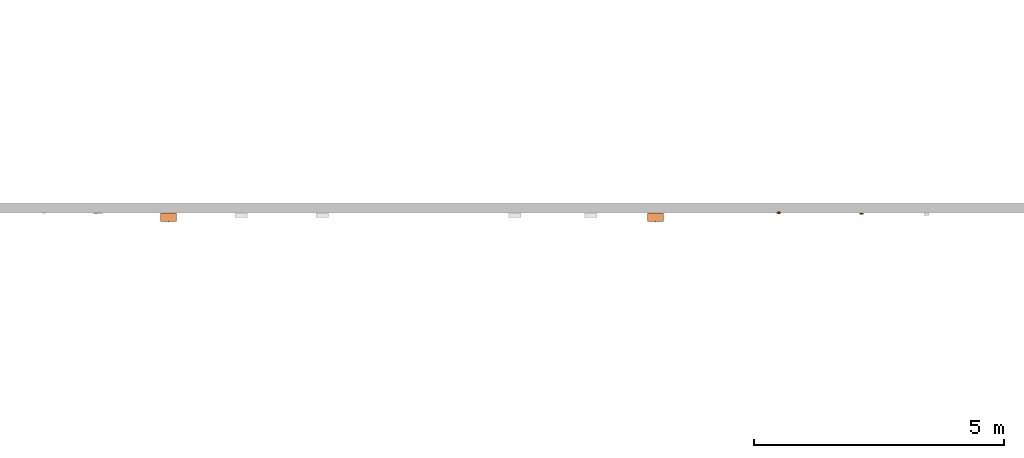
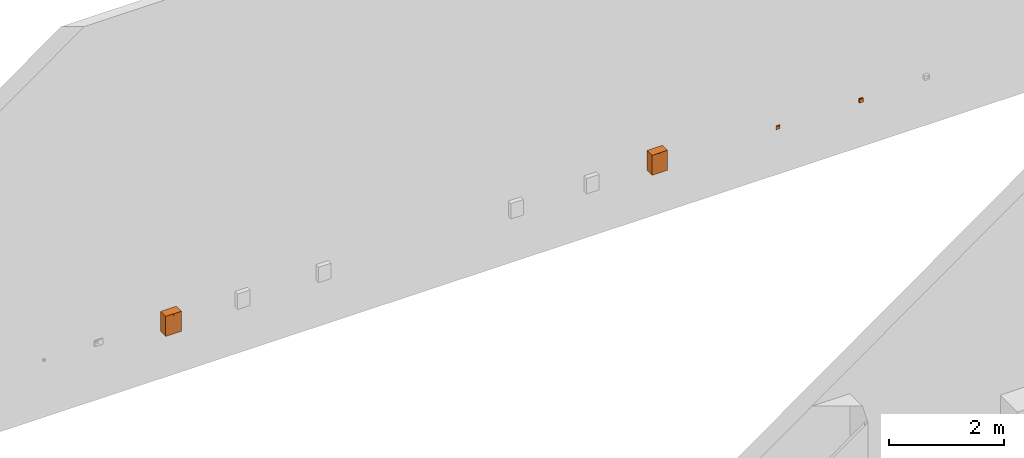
# One storey, part 94 of 197: 4 proxies.
"""IFC2X3 building model written with IfcOpenShell, lengths in metres."""

from ifc_helpers import new_model, entity, si_unit, converted_unit, direction, frame, origin, place, context, subcontext, project, spatial, faceted_brep, source, transform, mapped, material, material_list, type_object, type_shapes, element, save


model = new_model("IFC2X3")

# Units and contexts
model_context = context("Model", 3, precision=1e-05, world=origin(), true_north=direction((6.123031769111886e-17, 1.0)))
body_context = subcontext(model_context, "Body", "Model", "MODEL_VIEW")
ifc_project = project(units=[si_unit("LENGTHUNIT", "METRE"), converted_unit("PLANEANGLEUNIT", "DEGREE", entity("IfcPlaneAngleMeasure", 0.017453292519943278), si_unit("PLANEANGLEUNIT", "RADIAN"), dimensions=[0, 0, 0, 0, 0, 0, 0]), si_unit("AREAUNIT", "SQUARE_METRE")], contexts=[model_context])

# Site, building, storey
site_placement = place(None, origin())
site = spatial("IfcSite", under=ifc_project, at=site_placement, Name="Default", CompositionType="ELEMENT")
building_placement = place(site_placement, origin())
building = spatial("IfcBuilding", under=site, at=building_placement, CompositionType="ELEMENT")
storey_placement = place(building_placement, origin())
storey = spatial("IfcBuildingStorey", under=building, at=storey_placement, Name="Niveau 0", CompositionType="ELEMENT", Elevation=0.0)

# Proxies
ifc_material_1 = material(Name="<Unnamed>")
building_element_proxy_type_1 = type_object("IfcBuildingElementProxyType", Name="Centrale:Centrale control d'accés", PredefinedType="NOTDEFINED", material=ifc_material_1)
shared_shape_1 = source(origin(), body_context, "Body", "Brep", [
    faceted_brep([(0.0009489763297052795, -0.1840000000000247, 0.41400995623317), (0.0009489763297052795, -0.1840000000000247, 0.398122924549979), (0.002824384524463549, -0.1840000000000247, 0.39858159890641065), (0.004535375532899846, -0.1840000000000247, 0.3994762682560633), (0.00598229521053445, -0.1840000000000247, 0.40075492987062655), (0.007080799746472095, -0.1840000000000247, 0.40234323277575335), (0.007766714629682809, -0.1840000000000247, 0.4041485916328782), (0.008000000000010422, -0.1840000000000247, 0.4060664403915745), (0.007766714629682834, -0.1840000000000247, 0.40798428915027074), (0.00708079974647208, -0.1840000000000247, 0.4097896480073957), (0.005982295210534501, -0.1840000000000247, 0.4113779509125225), (0.004535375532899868, -0.1840000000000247, 0.4126566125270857), (0.0028243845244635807, -0.1840000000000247, 0.41355128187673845), (-0.006016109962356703, -0.1840000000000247, 0.4113396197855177), (-0.0070965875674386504, -0.1840000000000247, 0.4097594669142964), (-0.007770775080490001, -0.1840000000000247, 0.4079677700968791), (-0.007999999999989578, -0.1840000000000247, 0.4060664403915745), (-0.007770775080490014, -0.1840000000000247, 0.40416511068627), (-0.007096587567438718, -0.1840000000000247, 0.4023734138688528), (-0.0060161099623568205, -0.1840000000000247, 0.40079326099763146), (-0.004591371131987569, -0.1840000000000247, 0.3995151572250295), (-0.0029039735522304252, -0.1840000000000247, 0.3986121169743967), (-0.0010510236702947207, -0.1840000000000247, 0.3981357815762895), (-0.0010510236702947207, -0.1840000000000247, 0.41399709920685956), (-0.0029039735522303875, -0.1840000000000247, 0.4135207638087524), (-0.004591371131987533, -0.1840000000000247, 0.41261772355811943), (-0.0020705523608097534, -0.17500000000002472, 0.398339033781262), (-0.003999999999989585, -0.17500000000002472, 0.39913823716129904), (-0.005656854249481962, -0.17500000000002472, 0.40040958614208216), (-0.006928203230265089, -0.17500000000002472, 0.4020664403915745), (-0.007727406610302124, -0.17500000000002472, 0.4039958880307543), (-0.007999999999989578, -0.17500000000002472, 0.4060664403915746), (-0.007727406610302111, -0.17500000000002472, 0.4081369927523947), (-0.006928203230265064, -0.17500000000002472, 0.4100664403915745), (-0.005656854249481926, -0.17500000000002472, 0.41172329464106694), (-0.0039999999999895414, -0.17500000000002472, 0.41299464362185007), (-0.0020705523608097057, -0.17500000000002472, 0.41379384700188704), (0.0, -0.17500000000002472, 0.41406644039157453), (0.0020705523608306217, -0.17500000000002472, 0.41379384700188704), (0.00400000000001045, -0.17500000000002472, 0.41299464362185), (0.005656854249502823, -0.17500000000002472, 0.4117232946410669), (0.006928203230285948, -0.17500000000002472, 0.41006644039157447), (0.007727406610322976, -0.17500000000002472, 0.4081369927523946), (0.008000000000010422, -0.17500000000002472, 0.4060664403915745), (0.007727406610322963, -0.17500000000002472, 0.4039958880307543), (0.006928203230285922, -0.17500000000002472, 0.40206644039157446), (0.005656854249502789, -0.17500000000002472, 0.4004095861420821), (0.00400000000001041, -0.17500000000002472, 0.39913823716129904), (0.0020705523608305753, -0.17500000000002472, 0.398339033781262), (0.0, -0.17500000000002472, 0.3980664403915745), (0.008000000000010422, -0.1779743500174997, 0.40606644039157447), (0.007975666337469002, -0.17830611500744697, 0.4066899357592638), (0.007952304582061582, -0.1789661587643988, 0.40693870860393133), (0.0009489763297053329, -0.18200000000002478, 0.41400995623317), (0.008000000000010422, -0.1799579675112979, 0.40606644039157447), (0.007975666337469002, -0.1796262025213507, 0.4066899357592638), (-5.1427042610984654e-05, -0.18200000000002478, 0.4140662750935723), (-0.007952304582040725, -0.1789661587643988, 0.40693870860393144), (-0.007975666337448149, -0.17830611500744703, 0.406689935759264), (-0.007999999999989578, -0.17797435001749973, 0.4060664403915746), (-0.001051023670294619, -0.18200000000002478, 0.41399709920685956), (-0.007975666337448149, -0.1796262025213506, 0.406689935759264), (-0.007999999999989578, -0.17995796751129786, 0.4060664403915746), (-0.007961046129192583, -0.17821557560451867, 0.4052779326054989), (-0.007920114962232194, -0.1789661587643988, 0.40493870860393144), (-0.0010510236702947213, -0.18200000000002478, 0.3981357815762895), (-0.007961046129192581, -0.1797167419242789, 0.4052779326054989), (-5.142704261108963e-05, -0.18200000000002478, 0.39806660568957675), (0.0009489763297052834, -0.18200000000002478, 0.398122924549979), (0.007961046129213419, -0.17821557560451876, 0.4052779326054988), (0.007920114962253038, -0.1789661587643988, 0.40493870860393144), (0.007961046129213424, -0.1797167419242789, 0.4052779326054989)], [[[0, 1, 2, 3, 4, 5, 6, 7, 8, 9, 10, 11, 12]], [[13, 14, 15, 16, 17, 18, 19, 20, 21, 22, 23, 24, 25]], [[26, 27, 28, 29, 30, 31, 32, 33, 34, 35, 36, 37, 38, 39, 40, 41, 42, 43, 44, 45, 46, 47, 48, 49]], [[43, 42, 50]], [[41, 51, 50]], [[39, 52, 51]], [[41, 50, 42]], [[39, 51, 40]], [[52, 38, 53]], [[52, 39, 38]], [[40, 51, 41]], [[53, 38, 37]], [[9, 54, 10]], [[54, 8, 7]], [[8, 54, 9]], [[54, 55, 53]], [[53, 0, 12]], [[53, 11, 10]], [[11, 53, 12]], [[53, 10, 54]], [[55, 52, 53]], [[53, 37, 56]], [[57, 36, 35]], [[58, 34, 33]], [[35, 34, 58]], [[33, 32, 59]], [[59, 58, 33]], [[57, 35, 58]], [[36, 57, 60]], [[32, 31, 59]], [[60, 57, 61]], [[37, 60, 56]], [[60, 24, 23]], [[24, 60, 25]], [[60, 13, 25]], [[62, 16, 15]], [[62, 14, 13]], [[14, 62, 15]], [[62, 13, 60]], [[61, 62, 60]], [[60, 37, 36]], [[63, 59, 30]], [[27, 64, 63]], [[65, 66, 64]], [[30, 59, 31]], [[28, 63, 29]], [[27, 26, 64]], [[63, 28, 27]], [[29, 63, 30]], [[65, 64, 26]], [[66, 18, 62]], [[66, 19, 18]], [[62, 17, 16]], [[17, 62, 18]], [[19, 66, 65]], [[65, 21, 20]], [[21, 65, 22]], [[65, 20, 19]], [[65, 49, 67]], [[65, 26, 49]], [[48, 68, 49]], [[69, 47, 46]], [[48, 47, 70]], [[46, 45, 69]], [[44, 43, 50]], [[70, 47, 69]], [[50, 69, 44]], [[69, 45, 44]], [[68, 48, 70]], [[68, 4, 3]], [[4, 68, 71]], [[68, 2, 1]], [[2, 68, 3]], [[71, 54, 5]], [[54, 6, 5]], [[6, 54, 7]], [[71, 5, 4]], [[68, 70, 71]], [[68, 67, 49]], [[60, 65, 67, 68, 53, 56]], [[1, 0, 53, 68]], [[22, 65, 60, 23]], [[58, 51, 52, 57]], [[51, 58, 59, 50]], [[63, 69, 50, 59]], [[63, 64, 70, 69]], [[66, 71, 70, 64]], [[62, 54, 71, 66]], [[61, 55, 54, 62]], [[61, 57, 52, 55]]]),
    faceted_brep([(0.15750000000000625, 0.0, 0.42499999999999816), (-0.1575000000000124, 0.0, 0.42499999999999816), (-0.1575000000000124, -0.17500000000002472, 0.42499999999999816), (0.15750000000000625, -0.17500000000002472, 0.42499999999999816), (0.15750000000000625, 0.0, 0.0), (0.15750000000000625, -0.17500000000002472, 0.0), (-0.1575000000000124, -0.17500000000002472, 0.0), (-0.1575000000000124, 0.0, 0.0)], [[[0, 1, 2, 3]], [[4, 5, 6, 7]], [[1, 0, 4, 7]], [[2, 1, 7, 6]], [[3, 2, 6, 5]], [[0, 3, 5, 4]]]),
])
type_shapes(building_element_proxy_type_1, [shared_shape_1])
proxy_1_placement = place(storey_placement, frame((-518.7917193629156, -41.55864475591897, 1.0)))
element("IfcBuildingElementProxy", 1, at=proxy_1_placement, inside=storey, type_object=building_element_proxy_type_1, material=ifc_material_1, Name="Centrale:Centrale control d'accés", ObjectType="Centrale:Centrale control d'accés", context=body_context, shape_type="MappedRepresentation", body=[
    mapped(shared_shape_1, transform((0.0, 0.0, 0.0), scale=1.0)),
])
building_element_proxy_type_2 = type_object("IfcBuildingElementProxyType", Name="Centrale:Centrale intrusion", PredefinedType="NOTDEFINED", material=ifc_material_1)
shared_shape_2 = source(origin(), body_context, "Body", "Brep", [
    faceted_brep([(0.0009489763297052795, -0.1840000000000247, 0.41400995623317), (0.0009489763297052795, -0.1840000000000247, 0.398122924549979), (0.002824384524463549, -0.1840000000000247, 0.39858159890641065), (0.004535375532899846, -0.1840000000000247, 0.3994762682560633), (0.00598229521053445, -0.1840000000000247, 0.40075492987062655), (0.007080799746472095, -0.1840000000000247, 0.40234323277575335), (0.007766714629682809, -0.1840000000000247, 0.4041485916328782), (0.008000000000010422, -0.1840000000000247, 0.4060664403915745), (0.007766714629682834, -0.1840000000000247, 0.40798428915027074), (0.00708079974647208, -0.1840000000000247, 0.4097896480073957), (0.005982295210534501, -0.1840000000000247, 0.4113779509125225), (0.004535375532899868, -0.1840000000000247, 0.4126566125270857), (0.0028243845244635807, -0.1840000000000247, 0.41355128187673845), (-0.006016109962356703, -0.1840000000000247, 0.4113396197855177), (-0.0070965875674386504, -0.1840000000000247, 0.4097594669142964), (-0.007770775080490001, -0.1840000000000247, 0.4079677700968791), (-0.007999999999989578, -0.1840000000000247, 0.4060664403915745), (-0.007770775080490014, -0.1840000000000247, 0.40416511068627), (-0.007096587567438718, -0.1840000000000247, 0.4023734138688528), (-0.0060161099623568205, -0.1840000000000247, 0.40079326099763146), (-0.004591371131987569, -0.1840000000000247, 0.3995151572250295), (-0.0029039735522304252, -0.1840000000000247, 0.3986121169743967), (-0.0010510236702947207, -0.1840000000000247, 0.3981357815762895), (-0.0010510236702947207, -0.1840000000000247, 0.41399709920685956), (-0.0029039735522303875, -0.1840000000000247, 0.4135207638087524), (-0.004591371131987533, -0.1840000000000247, 0.41261772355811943), (-0.0020705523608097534, -0.17500000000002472, 0.398339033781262), (-0.003999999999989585, -0.17500000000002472, 0.39913823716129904), (-0.005656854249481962, -0.17500000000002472, 0.40040958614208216), (-0.006928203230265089, -0.17500000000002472, 0.4020664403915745), (-0.007727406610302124, -0.17500000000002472, 0.4039958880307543), (-0.007999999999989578, -0.17500000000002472, 0.4060664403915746), (-0.007727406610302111, -0.17500000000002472, 0.4081369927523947), (-0.006928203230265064, -0.17500000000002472, 0.4100664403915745), (-0.005656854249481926, -0.17500000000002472, 0.41172329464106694), (-0.0039999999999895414, -0.17500000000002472, 0.41299464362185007), (-0.0020705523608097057, -0.17500000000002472, 0.41379384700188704), (0.0, -0.17500000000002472, 0.41406644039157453), (0.0020705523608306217, -0.17500000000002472, 0.41379384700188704), (0.00400000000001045, -0.17500000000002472, 0.41299464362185), (0.005656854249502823, -0.17500000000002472, 0.4117232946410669), (0.006928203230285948, -0.17500000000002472, 0.41006644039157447), (0.007727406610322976, -0.17500000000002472, 0.4081369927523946), (0.008000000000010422, -0.17500000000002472, 0.4060664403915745), (0.007727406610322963, -0.17500000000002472, 0.4039958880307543), (0.006928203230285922, -0.17500000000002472, 0.40206644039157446), (0.005656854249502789, -0.17500000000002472, 0.4004095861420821), (0.00400000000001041, -0.17500000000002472, 0.39913823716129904), (0.0020705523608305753, -0.17500000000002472, 0.398339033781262), (0.0, -0.17500000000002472, 0.3980664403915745), (0.008000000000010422, -0.1779743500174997, 0.40606644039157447), (0.007975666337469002, -0.17830611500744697, 0.4066899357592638), (0.007952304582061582, -0.1789661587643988, 0.40693870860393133), (0.0009489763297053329, -0.18200000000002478, 0.41400995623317), (0.008000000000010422, -0.1799579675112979, 0.40606644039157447), (0.007975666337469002, -0.1796262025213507, 0.4066899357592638), (-5.1427042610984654e-05, -0.18200000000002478, 0.4140662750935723), (-0.007952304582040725, -0.1789661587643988, 0.40693870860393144), (-0.007975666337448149, -0.17830611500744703, 0.406689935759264), (-0.007999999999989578, -0.17797435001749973, 0.4060664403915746), (-0.001051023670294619, -0.18200000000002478, 0.41399709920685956), (-0.007975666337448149, -0.1796262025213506, 0.406689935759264), (-0.007999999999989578, -0.17995796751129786, 0.4060664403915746), (-0.007961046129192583, -0.17821557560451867, 0.4052779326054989), (-0.007920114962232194, -0.1789661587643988, 0.40493870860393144), (-0.0010510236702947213, -0.18200000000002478, 0.3981357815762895), (-0.007961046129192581, -0.1797167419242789, 0.4052779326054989), (-5.142704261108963e-05, -0.18200000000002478, 0.39806660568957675), (0.0009489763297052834, -0.18200000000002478, 0.398122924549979), (0.007961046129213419, -0.17821557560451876, 0.4052779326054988), (0.007920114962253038, -0.1789661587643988, 0.40493870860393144), (0.007961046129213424, -0.1797167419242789, 0.4052779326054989)], [[[0, 1, 2, 3, 4, 5, 6, 7, 8, 9, 10, 11, 12]], [[13, 14, 15, 16, 17, 18, 19, 20, 21, 22, 23, 24, 25]], [[26, 27, 28, 29, 30, 31, 32, 33, 34, 35, 36, 37, 38, 39, 40, 41, 42, 43, 44, 45, 46, 47, 48, 49]], [[43, 42, 50]], [[41, 51, 50]], [[39, 52, 51]], [[41, 50, 42]], [[39, 51, 40]], [[52, 38, 53]], [[52, 39, 38]], [[40, 51, 41]], [[53, 38, 37]], [[9, 54, 10]], [[54, 8, 7]], [[8, 54, 9]], [[54, 55, 53]], [[53, 0, 12]], [[53, 11, 10]], [[11, 53, 12]], [[53, 10, 54]], [[55, 52, 53]], [[53, 37, 56]], [[57, 36, 35]], [[58, 34, 33]], [[35, 34, 58]], [[33, 32, 59]], [[59, 58, 33]], [[57, 35, 58]], [[36, 57, 60]], [[32, 31, 59]], [[60, 57, 61]], [[37, 60, 56]], [[60, 24, 23]], [[24, 60, 25]], [[60, 13, 25]], [[62, 16, 15]], [[62, 14, 13]], [[14, 62, 15]], [[62, 13, 60]], [[61, 62, 60]], [[60, 37, 36]], [[63, 59, 30]], [[27, 64, 63]], [[65, 66, 64]], [[30, 59, 31]], [[28, 63, 29]], [[27, 26, 64]], [[63, 28, 27]], [[29, 63, 30]], [[65, 64, 26]], [[66, 18, 62]], [[66, 19, 18]], [[62, 17, 16]], [[17, 62, 18]], [[19, 66, 65]], [[65, 21, 20]], [[21, 65, 22]], [[65, 20, 19]], [[65, 49, 67]], [[65, 26, 49]], [[48, 68, 49]], [[69, 47, 46]], [[48, 47, 70]], [[46, 45, 69]], [[44, 43, 50]], [[70, 47, 69]], [[50, 69, 44]], [[69, 45, 44]], [[68, 48, 70]], [[68, 4, 3]], [[4, 68, 71]], [[68, 2, 1]], [[2, 68, 3]], [[71, 54, 5]], [[54, 6, 5]], [[6, 54, 7]], [[71, 5, 4]], [[68, 70, 71]], [[68, 67, 49]], [[60, 65, 67, 68, 53, 56]], [[1, 0, 53, 68]], [[22, 65, 60, 23]], [[58, 51, 52, 57]], [[51, 58, 59, 50]], [[63, 69, 50, 59]], [[63, 64, 70, 69]], [[66, 71, 70, 64]], [[62, 54, 71, 66]], [[61, 55, 54, 62]], [[61, 57, 52, 55]]]),
    faceted_brep([(0.15750000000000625, 0.0, 0.42499999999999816), (-0.1575000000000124, 0.0, 0.42499999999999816), (-0.1575000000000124, -0.17500000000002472, 0.42499999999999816), (0.15750000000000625, -0.17500000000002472, 0.42499999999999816), (0.15750000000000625, 0.0, 0.0), (0.15750000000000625, -0.17500000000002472, 0.0), (-0.1575000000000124, -0.17500000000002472, 0.0), (-0.1575000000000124, 0.0, 0.0)], [[[0, 1, 2, 3]], [[4, 5, 6, 7]], [[1, 0, 4, 7]], [[2, 1, 7, 6]], [[3, 2, 6, 5]], [[0, 3, 5, 4]]]),
])
type_shapes(building_element_proxy_type_2, [shared_shape_2])
proxy_2_placement = place(storey_placement, frame((-528.5465951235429, -41.55864475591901, 1.0)))
element("IfcBuildingElementProxy", 2, at=proxy_2_placement, inside=storey, type_object=building_element_proxy_type_2, material=ifc_material_1, Name="Centrale:Centrale intrusion", ObjectType="Centrale:Centrale intrusion", context=body_context, shape_type="MappedRepresentation", body=[
    mapped(shared_shape_2, transform((0.0, 0.0, 0.0), scale=1.0)),
])
ifc_material_2 = material(Name="BETCE-DOIGT-BLANC")
ifc_material_3 = material(Name="BETCE-ENJOLIVEUR-BLANC")
ifc_material_list_1 = material_list([ifc_material_2, ifc_material_3, ifc_material_1])
building_element_proxy_type_3 = type_object("IfcBuildingElementProxyType", Name="Bouton poussoir encastré controle acces:BP sortie", PredefinedType="NOTDEFINED", material=ifc_material_list_1)
shared_shape_3 = source(origin(), body_context, "Body", "Brep", [
    faceted_brep([(-0.022500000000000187, 0.0, -0.022500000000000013), (-0.022500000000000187, 0.0, 0.022499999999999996), (0.022499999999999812, 0.0, 0.022499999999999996), (0.022499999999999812, 0.0, -0.022500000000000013), (-0.022500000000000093, -0.014999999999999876, -0.022500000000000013), (-0.02250000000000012, -0.010499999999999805, 0.022499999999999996), (0.022499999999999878, -0.010499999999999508, 0.022499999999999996), (0.022499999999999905, -0.014999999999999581, -0.022500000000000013)], [[[0, 1, 2, 3]], [[1, 0, 4, 5]], [[2, 1, 5, 6]], [[3, 2, 6, 7]], [[0, 3, 7, 4]], [[5, 4, 7, 6]]]),
    faceted_brep([(0.04099999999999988, -0.008999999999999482, -0.032999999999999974), (0.04099999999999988, -0.008999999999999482, 0.031999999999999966), (0.022499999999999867, -0.008999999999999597, -0.022500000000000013), (0.032999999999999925, -0.008999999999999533, -0.04099999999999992), (0.03507055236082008, -0.008999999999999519, -0.04072740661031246), (0.040727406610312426, -0.008999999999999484, -0.03507055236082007), (0.022499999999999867, -0.008999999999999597, 0.022499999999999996), (-0.02250000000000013, -0.008999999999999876, 0.022499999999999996), (-0.04100000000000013, -0.008999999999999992, 0.031999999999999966), (-0.02250000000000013, -0.008999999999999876, -0.022500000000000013), (-0.04100000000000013, -0.008999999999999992, -0.03299999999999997), (-0.033000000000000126, -0.008999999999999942, -0.04099999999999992), (-0.035070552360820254, -0.008999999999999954, -0.040727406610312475), (-0.040727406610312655, -0.008999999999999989, -0.03507055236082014), (-0.03700000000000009, -0.008999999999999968, -0.039928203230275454), (-0.03992820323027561, -0.008999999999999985, -0.036999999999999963), (-0.03865685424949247, -0.008999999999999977, -0.03865685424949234), (0.036999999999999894, -0.008999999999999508, -0.03992820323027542), (0.03992820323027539, -0.00899999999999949, -0.036999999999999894), (0.038656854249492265, -0.008999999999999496, -0.03865685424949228), (-0.04100000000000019, 0.0, -0.03299999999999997), (-0.04100000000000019, 0.0, 0.04100000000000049), (-0.02250000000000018, 0.0, 0.022499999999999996), (-0.02250000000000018, 0.0, -0.022500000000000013), (-0.03300000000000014, 0.0, -0.04099999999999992), (-0.04072740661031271, 0.0, -0.03507055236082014), (0.022499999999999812, 0.0, 0.022499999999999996), (0.040999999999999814, 0.0, 0.04099999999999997), (0.04099999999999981, 0.0, -0.03299999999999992), (0.022499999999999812, 0.0, -0.022500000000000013), (0.03299999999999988, 0.0, -0.04099999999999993), (0.040727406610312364, 0.0, -0.03507055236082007), (0.035070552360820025, 0.0, -0.04072740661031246), (0.039928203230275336, 0.0, -0.036999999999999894), (0.03699999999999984, 0.0, -0.03992820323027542), (0.03865685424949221, 0.0, -0.03865685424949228), (-0.0350705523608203, 0.0, -0.040727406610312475), (-0.03992820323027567, 0.0, -0.036999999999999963), (-0.03700000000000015, 0.0, -0.039928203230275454), (-0.03865685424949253, 0.0, -0.03865685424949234), (0.040999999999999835, -0.002329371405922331, 0.040693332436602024), (0.04099999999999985, -0.004499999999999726, 0.03979422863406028), (0.040999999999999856, -0.006363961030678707, 0.03836396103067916), (0.04099999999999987, -0.007794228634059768, 0.03650000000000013), (0.04099999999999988, -0.008693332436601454, 0.03432937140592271), (-0.04100000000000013, -0.008693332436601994, 0.03432937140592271), (-0.04100000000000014, -0.007794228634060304, 0.036500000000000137), (-0.04100000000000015, -0.0063639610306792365, 0.038363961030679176), (-0.041000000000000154, -0.004500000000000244, 0.039794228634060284), (-0.041000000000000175, -0.002329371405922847, 0.04069333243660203)], [[[0, 1, 2]], [[3, 0, 2]], [[0, 3, 4]], [[5, 0, 4]], [[2, 1, 6]], [[1, 7, 6]], [[7, 1, 8]], [[9, 7, 8]], [[10, 9, 8]], [[11, 9, 10]], [[11, 10, 12]], [[12, 10, 13]], [[14, 12, 13]], [[15, 14, 13]], [[14, 15, 16]], [[9, 11, 3]], [[2, 9, 3]], [[5, 4, 17]], [[5, 17, 18]], [[19, 18, 17]], [[20, 21, 22]], [[23, 20, 22]], [[24, 20, 23]], [[25, 20, 24]], [[21, 26, 22]], [[26, 21, 27]], [[28, 26, 27]], [[29, 26, 28]], [[30, 29, 28]], [[30, 28, 31]], [[30, 31, 32]], [[31, 33, 32]], [[33, 34, 32]], [[34, 33, 35]], [[29, 30, 24]], [[25, 24, 36]], [[23, 29, 24]], [[37, 25, 36]], [[37, 36, 38]], [[39, 37, 38]], [[1, 0, 28, 27, 40, 41, 42, 43, 44]], [[31, 28, 0, 5]], [[33, 31, 5, 18]], [[35, 33, 18, 19]], [[34, 35, 19, 17]], [[32, 34, 17, 4]], [[30, 32, 4, 3]], [[24, 30, 3, 11]], [[36, 24, 11, 12]], [[38, 36, 12, 14]], [[39, 38, 14, 16]], [[37, 39, 16, 15]], [[25, 37, 15, 13]], [[20, 25, 13, 10]], [[21, 20, 10, 8, 45, 46, 47, 48, 49]], [[44, 43, 46, 45]], [[1, 44, 45, 8]], [[43, 42, 47, 46]], [[49, 48, 41, 40]], [[21, 49, 40, 27]], [[42, 41, 48, 47]], [[23, 22, 7, 9]], [[29, 23, 9, 2]], [[26, 29, 2, 6]], [[22, 26, 6, 7]]]),
    faceted_brep([(-0.020500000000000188, 0.0, 0.020499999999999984), (-0.020500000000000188, 0.0, -0.020500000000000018), (0.020499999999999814, 0.0, -0.020500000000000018), (0.020499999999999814, 0.0, 0.020499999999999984), (-0.02050000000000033, 0.023000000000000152, 0.020499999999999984), (0.02049999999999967, 0.023000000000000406, 0.020499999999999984), (0.02049999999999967, 0.023000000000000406, -0.020500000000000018), (-0.02050000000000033, 0.023000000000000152, -0.020500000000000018)], [[[0, 1, 2, 3]], [[4, 5, 6, 7]], [[1, 0, 4, 7]], [[2, 1, 7, 6]], [[3, 2, 6, 5]], [[0, 3, 5, 4]]]),
])
type_shapes(building_element_proxy_type_3, [shared_shape_3])
proxy_3_placement = place(storey_placement, frame((-516.322595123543, -41.558644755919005, 1.0)))
element("IfcBuildingElementProxy", 3, at=proxy_3_placement, inside=storey, type_object=building_element_proxy_type_3, material=ifc_material_list_1, Name="Bouton poussoir encastré controle acces:BP sortie", ObjectType="Bouton poussoir encastré controle acces:BP sortie", context=body_context, shape_type="MappedRepresentation", body=[
    mapped(shared_shape_3, transform((0.0, 0.0, 0.0), scale=1.0)),
])
ifc_material_4 = material(Name="BETCE-CADRE-BLANC")
ifc_material_list_2 = material_list([ifc_material_4, ifc_material_2, ifc_material_3])
building_element_proxy_type_4 = type_object("IfcBuildingElementProxyType", Name="Bouton poussoir saillie controle acces:BP sortie", PredefinedType="NOTDEFINED", material=ifc_material_list_2)
shared_shape_4 = source(origin(), body_context, "Body", "Brep", [
    faceted_brep([(0.040999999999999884, -0.023, -0.03299999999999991), (0.040999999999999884, -0.023, 0.04092306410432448), (-0.04100000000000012, -0.023000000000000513, 0.04092306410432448), (-0.04100000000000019, -0.023000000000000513, -0.03299999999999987), (-0.040727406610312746, -0.023000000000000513, -0.03507055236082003), (-0.039928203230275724, -0.023000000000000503, -0.03699999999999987), (-0.038656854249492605, -0.0230000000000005, -0.038656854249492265), (-0.037000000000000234, -0.023000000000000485, -0.03992820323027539), (-0.0350705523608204, -0.023000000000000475, -0.04072740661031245), (-0.03300000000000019, -0.02300000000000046, -0.040999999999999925), (0.032999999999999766, -0.02300000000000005, -0.040999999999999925), (0.03507055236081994, -0.023000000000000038, -0.04072740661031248), (0.036999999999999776, -0.023000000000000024, -0.03992820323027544), (0.03865685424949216, -0.023000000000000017, -0.038656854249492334), (0.0399282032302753, -0.023000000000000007, -0.03699999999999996), (0.04072740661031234, -0.023000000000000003, -0.035070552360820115), (-0.041000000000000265, 0.0, -0.03299999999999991), (-0.041000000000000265, 0.0, 0.04092306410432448), (0.04099999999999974, 0.0, 0.04092306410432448), (0.040999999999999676, 0.0, -0.03299999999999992), (0.04072740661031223, 0.0, -0.03507055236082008), (0.03992820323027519, 0.0, -0.03699999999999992), (0.03865685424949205, 0.0, -0.0386568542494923), (0.036999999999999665, 0.0, -0.039928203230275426), (0.03507055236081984, 0.0, -0.04072740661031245), (0.032999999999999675, 0.0, -0.040999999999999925), (-0.033000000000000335, 0.0, -0.040999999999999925), (-0.03507055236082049, 0.0, -0.04072740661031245), (-0.03700000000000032, 0.0, -0.03992820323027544), (-0.0386568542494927, 0.0, -0.0386568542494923), (-0.03992820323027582, 0.0, -0.036999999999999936), (-0.04072740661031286, 0.0, -0.035070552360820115)], [[[0, 1, 2, 3, 4, 5, 6, 7, 8, 9, 10, 11, 12, 13, 14, 15]], [[16, 17, 18, 19, 20, 21, 22, 23, 24, 25, 26, 27, 28, 29, 30, 31]], [[3, 2, 17, 16]], [[10, 9, 26, 25]], [[1, 0, 19, 18]], [[2, 1, 18, 17]], [[26, 9, 8, 27]], [[27, 8, 7, 28]], [[28, 7, 6, 29]], [[30, 5, 4, 31]], [[31, 4, 3, 16]], [[29, 6, 5, 30]], [[20, 19, 0, 15]], [[21, 20, 15, 14]], [[22, 21, 14, 13]], [[23, 22, 13, 12]], [[24, 23, 12, 11]], [[25, 24, 11, 10]]]),
    faceted_brep([(-0.022500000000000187, -0.02299999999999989, -0.022500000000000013), (-0.022500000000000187, -0.02299999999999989, 0.022499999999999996), (0.022499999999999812, -0.02299999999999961, 0.022499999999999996), (0.022499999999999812, -0.02299999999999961, -0.022500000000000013), (-0.022500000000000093, -0.03799999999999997, -0.022500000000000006), (-0.02250000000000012, -0.03349999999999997, 0.022499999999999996), (0.022499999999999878, -0.033499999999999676, 0.022499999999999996), (0.022499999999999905, -0.0379999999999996, -0.022500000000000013)], [[[0, 1, 2, 3]], [[1, 0, 4, 5]], [[2, 1, 5, 6]], [[3, 2, 6, 7]], [[0, 3, 7, 4]], [[5, 4, 7, 6]]]),
    faceted_brep([(0.04099999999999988, -0.031999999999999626, -0.03300000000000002), (0.04099999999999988, -0.031999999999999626, 0.0319999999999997), (0.022499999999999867, -0.031999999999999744, -0.022500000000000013), (0.03299999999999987, -0.03199999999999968, -0.04099999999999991), (0.03507055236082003, -0.03199999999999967, -0.04072740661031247), (0.040727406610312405, -0.031999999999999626, -0.035070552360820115), (0.022499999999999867, -0.031999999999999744, 0.022499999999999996), (-0.02250000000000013, -0.03200000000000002, 0.022499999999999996), (-0.04100000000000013, -0.03200000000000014, 0.0319999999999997), (-0.02250000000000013, -0.03200000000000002, -0.022500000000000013), (-0.04100000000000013, -0.03200000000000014, -0.0329999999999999), (-0.03300000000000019, -0.03200000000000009, -0.04099999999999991), (-0.0350705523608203, -0.032000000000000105, -0.04072740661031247), (-0.04072740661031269, -0.03200000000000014, -0.03507055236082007), (-0.037000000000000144, -0.03200000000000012, -0.039928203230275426), (-0.03992820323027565, -0.03200000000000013, -0.03699999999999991), (-0.03865685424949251, -0.032000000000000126, -0.038656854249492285), (0.03699999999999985, -0.031999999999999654, -0.039928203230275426), (0.039928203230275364, -0.03199999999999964, -0.036999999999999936), (0.03865685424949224, -0.03199999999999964, -0.03865685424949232), (-0.04100000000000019, -0.02300000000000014, -0.03299999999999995), (-0.04100000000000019, -0.02300000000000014, 0.041000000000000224), (-0.02250000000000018, -0.02300000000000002, 0.022499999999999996), (-0.02250000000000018, -0.02300000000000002, -0.022500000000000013), (-0.03300000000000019, -0.02300000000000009, -0.04099999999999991), (-0.040727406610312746, -0.023000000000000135, -0.03507055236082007), (0.022499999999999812, -0.022999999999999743, 0.022499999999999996), (0.040999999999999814, -0.02299999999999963, 0.0410000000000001), (0.04099999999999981, -0.02299999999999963, -0.03299999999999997), (0.022499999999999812, -0.022999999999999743, -0.022500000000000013), (0.03299999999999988, -0.022999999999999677, -0.04099999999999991), (0.04072740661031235, -0.02299999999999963, -0.035070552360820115), (0.035070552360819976, -0.022999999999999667, -0.04072740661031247), (0.03992820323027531, -0.022999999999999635, -0.036999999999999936), (0.0369999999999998, -0.022999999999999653, -0.039928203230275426), (0.038656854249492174, -0.02299999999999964, -0.03865685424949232), (-0.035070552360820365, -0.0230000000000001, -0.04072740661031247), (-0.039928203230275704, -0.02300000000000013, -0.03699999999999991), (-0.037000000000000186, -0.023000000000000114, -0.039928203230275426), (-0.03865685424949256, -0.02300000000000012, -0.038656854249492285), (0.040999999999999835, -0.02532937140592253, 0.04069333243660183), (0.04099999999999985, -0.027499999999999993, 0.039794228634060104), (0.040999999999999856, -0.029363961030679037, 0.038363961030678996), (0.04099999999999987, -0.03079422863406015, 0.03649999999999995), (0.04099999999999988, -0.03169333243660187, 0.03432937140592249), (-0.04100000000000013, -0.03169333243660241, 0.034329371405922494), (-0.04100000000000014, -0.03079422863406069, 0.03649999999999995), (-0.04100000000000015, -0.02936396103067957, 0.03836396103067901), (-0.041000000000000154, -0.027500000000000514, 0.039794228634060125), (-0.041000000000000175, -0.02532937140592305, 0.04069333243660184)], [[[0, 1, 2]], [[3, 0, 2]], [[0, 3, 4]], [[5, 0, 4]], [[2, 1, 6]], [[1, 7, 6]], [[7, 1, 8]], [[9, 7, 8]], [[10, 9, 8]], [[11, 9, 10]], [[11, 10, 12]], [[12, 10, 13]], [[14, 12, 13]], [[15, 14, 13]], [[14, 15, 16]], [[9, 11, 3]], [[2, 9, 3]], [[5, 4, 17]], [[5, 17, 18]], [[19, 18, 17]], [[20, 21, 22]], [[23, 20, 22]], [[24, 20, 23]], [[25, 20, 24]], [[21, 26, 22]], [[26, 21, 27]], [[28, 26, 27]], [[29, 26, 28]], [[30, 29, 28]], [[30, 28, 31]], [[30, 31, 32]], [[31, 33, 32]], [[33, 34, 32]], [[34, 33, 35]], [[29, 30, 24]], [[25, 24, 36]], [[23, 29, 24]], [[37, 25, 36]], [[37, 36, 38]], [[39, 37, 38]], [[1, 0, 28, 27, 40, 41, 42, 43, 44]], [[31, 28, 0, 5]], [[33, 31, 5, 18]], [[35, 33, 18, 19]], [[34, 35, 19, 17]], [[32, 34, 17, 4]], [[30, 32, 4, 3]], [[24, 30, 3, 11]], [[36, 24, 11, 12]], [[38, 36, 12, 14]], [[39, 38, 14, 16]], [[37, 39, 16, 15]], [[25, 37, 15, 13]], [[20, 25, 13, 10]], [[21, 20, 10, 8, 45, 46, 47, 48, 49]], [[44, 43, 46, 45]], [[1, 44, 45, 8]], [[43, 42, 47, 46]], [[49, 48, 41, 40]], [[21, 49, 40, 27]], [[42, 41, 48, 47]], [[23, 22, 7, 9]], [[29, 23, 9, 2]], [[26, 29, 2, 6]], [[22, 26, 6, 7]]]),
])
type_shapes(building_element_proxy_type_4, [shared_shape_4])
proxy_4_placement = place(storey_placement, frame((-514.666595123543, -41.558644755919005, 1.0)))
element("IfcBuildingElementProxy", 4, at=proxy_4_placement, inside=storey, type_object=building_element_proxy_type_4, material=ifc_material_list_2, Name="Bouton poussoir saillie controle acces:BP sortie", ObjectType="Bouton poussoir saillie controle acces:BP sortie", context=body_context, shape_type="MappedRepresentation", body=[
    mapped(shared_shape_4, transform((0.0, 0.0, 0.0), scale=1.0)),
])

save(model, "model.ifc")
